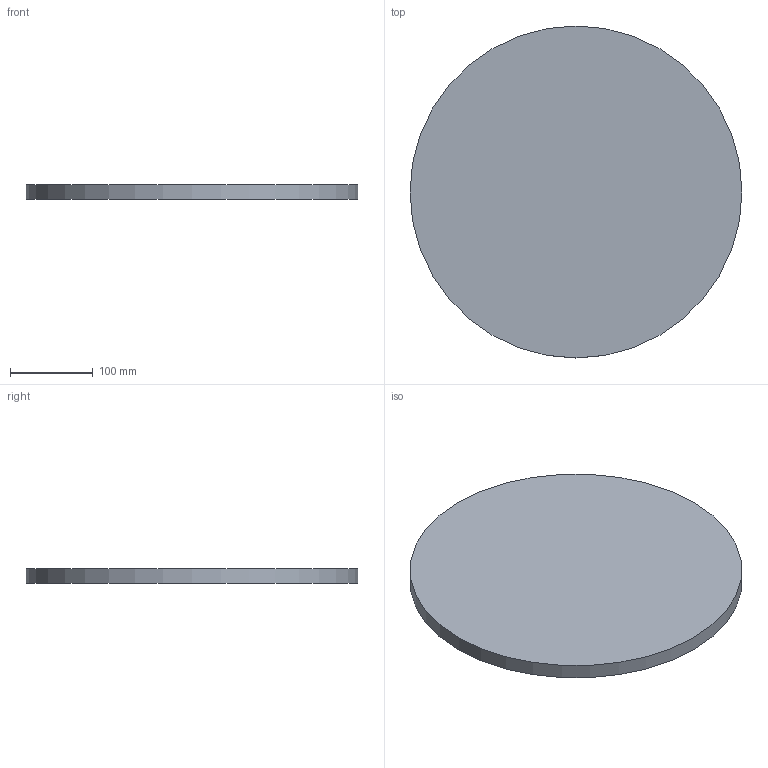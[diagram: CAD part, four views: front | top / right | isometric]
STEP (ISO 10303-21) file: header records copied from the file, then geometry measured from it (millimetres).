
FILE_DESCRIPTION(('Open CASCADE Model'),'2;1');
FILE_NAME('Open CASCADE Shape Model','2026-09-28T11:39:48',('Author'),( 'Open CASCADE'),'Open CASCADE STEP processor 7.9','Open CASCADE 7.9' ,'Unknown');
FILE_SCHEMA(('AUTOMOTIVE_DESIGN { 1 0 10303 214 1 1 1 1 }'));
Length unit declared in the file: millimetre
Products named in the file (2): disc-400; disc
Assembly tree (1 placements, depth 2):
  disc-400
    disc
Bounding box: 400 x 400 x 18 mm (x, y, z)
Volume: 2261946.7 mm3; surface area: 273946.9 mm2
Topology: 1 solids, 1 shells, 3 faces, 3 edges, 2 vertices
Faces by surface type: plane 2, cylinder 1
Full cylindrical faces by diameter (mm): 400 x1
Entity records: 135 total; most frequent: DIRECTION 21, CARTESIAN_POINT 16, AXIS2_PLACEMENT_3D 7, ORIENTED_EDGE 6, PCURVE 6, DEFINITIONAL_REPRESENTATION 6, LINE 5, VECTOR 5
